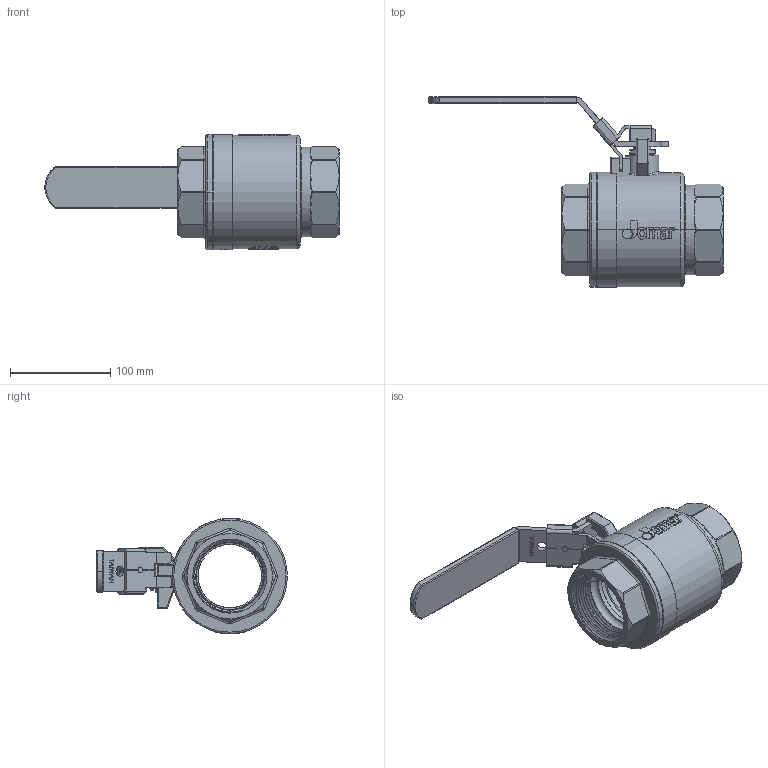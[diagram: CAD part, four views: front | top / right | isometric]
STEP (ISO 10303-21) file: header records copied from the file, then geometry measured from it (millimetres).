
FILE_DESCRIPTION (( 'STEP AP203' ), '1' );
FILE_NAME ('ABL749-有掛鎖-2.5''''JOMAR球閥組合-無鉛-無插溝.STEP', '2025-12-15T07:53:14', ( '' ), ( '' ), 'SwSTEP 2.0', 'SolidWorks 2018', '' );
FILE_SCHEMA (( 'CONFIG_CONTROL_DESIGN' ));
Length unit declared in the file: millimetre
Products named in the file (14): GBL210; DN65-掛鎖; DN65 & DN80-CBL749-白色膠套-T&G-200CSSG-LH; NBL270; TBL270; EBL209A; EBL309; RBL270; BBL709-2.5''''JOMAR球閥體-無鉛-端面無插溝; DN65-CBL749-LATCH LOCK HANDLE 組合; ABL749-有掛鎖-2.5''''JOMAR球閥組合-無鉛-無插溝; BBL709A-2.5''''JOMAR球閥八角頭-無鉛-端面無插溝; DN65-掛鎖把手-CBL270; EBL209B
Assembly tree (14 placements, depth 3):
  ABL749-有掛鎖-2.5''''JOMAR球閥組合-無鉛-無插溝
    BBL709-2.5''''JOMAR球閥體-無鉛-端面無插溝
    RBL270
    EBL209A
    EBL209B
    GBL210
    BBL709A-2.5''''JOMAR球閥八角頭-無鉛-端面無插溝
    NBL270
    EBL309  x2
    TBL270
    DN65-CBL749-LATCH LOCK HANDLE 組合
      DN65-掛鎖把手-CBL270
      DN65-掛鎖
    DN65 & DN80-CBL749-白色膠套-T&G-200CSSG-LH
Bounding box: 293.8 x 190.61 x 115.4 mm (x, y, z)
Volume: 794259.5 mm3; surface area: 284587.7 mm2
Topology: 13 solids, 13 shells, 2453 faces, 6595 edges, 4346 vertices
Faces by surface type: plane 1285, bspline 677, cylinder 307, cone 125, torus 47, sphere 12
Entity records: 138080 total; most frequent: CARTESIAN_POINT 80882, ORIENTED_EDGE 13118, DIRECTION 8838, EDGE_CURVE 6559, VERTEX_POINT 4328, VECTOR 4014, LINE 4014, EDGE_LOOP 2653
